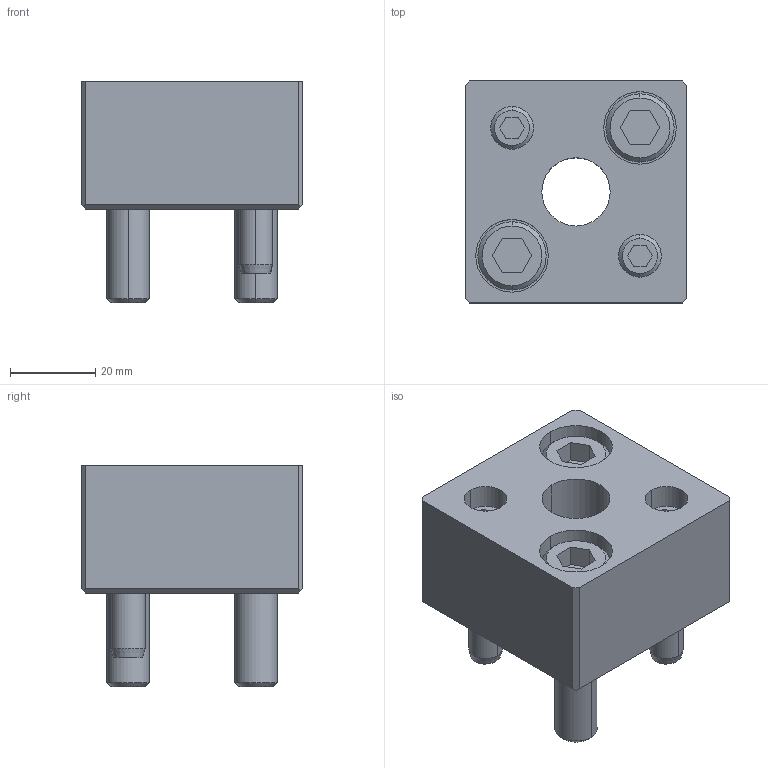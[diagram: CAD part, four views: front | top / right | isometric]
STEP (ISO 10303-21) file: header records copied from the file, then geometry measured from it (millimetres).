
FILE_DESCRIPTION(/* description */ (''),/* implementation_level */ '2;1');
FILE_NAME(/* name */ '3d_asfr16_03226_r00.stp',/* time_stamp */ '2011-01-10T14:17:34+09:00',/* author */ ('MISUMI'),/* organization */ (''),/* preprocessor_version */ 'ST-DEVELOPER v11',/* originating_system */ 'UGS - NX 5.0',/* authorisation */ '');
FILE_SCHEMA (('CONFIG_CONTROL_DESIGN'));
Length unit declared in the file: millimetre
Products named in the file (1): 3d_asfr16_03226_r00
Bounding box: 52 x 52 x 52 mm (x, y, z)
Volume: 74640 mm3; surface area: 23826.5 mm2
Topology: 7 solids, 7 shells, 139 faces, 310 edges, 199 vertices
Faces by surface type: plane 68, cylinder 45, cone 26
Entity records: 3984 total; most frequent: DIRECTION 700, CARTESIAN_POINT 696, ORIENTED_EDGE 620, EDGE_CURVE 310, AXIS2_PLACEMENT_3D 257, VERTEX_POINT 199, LINE 186, VECTOR 186
